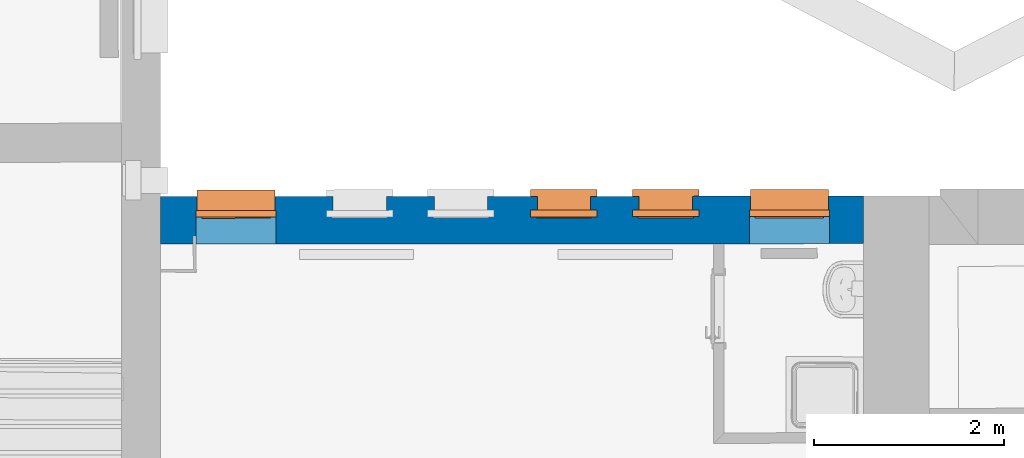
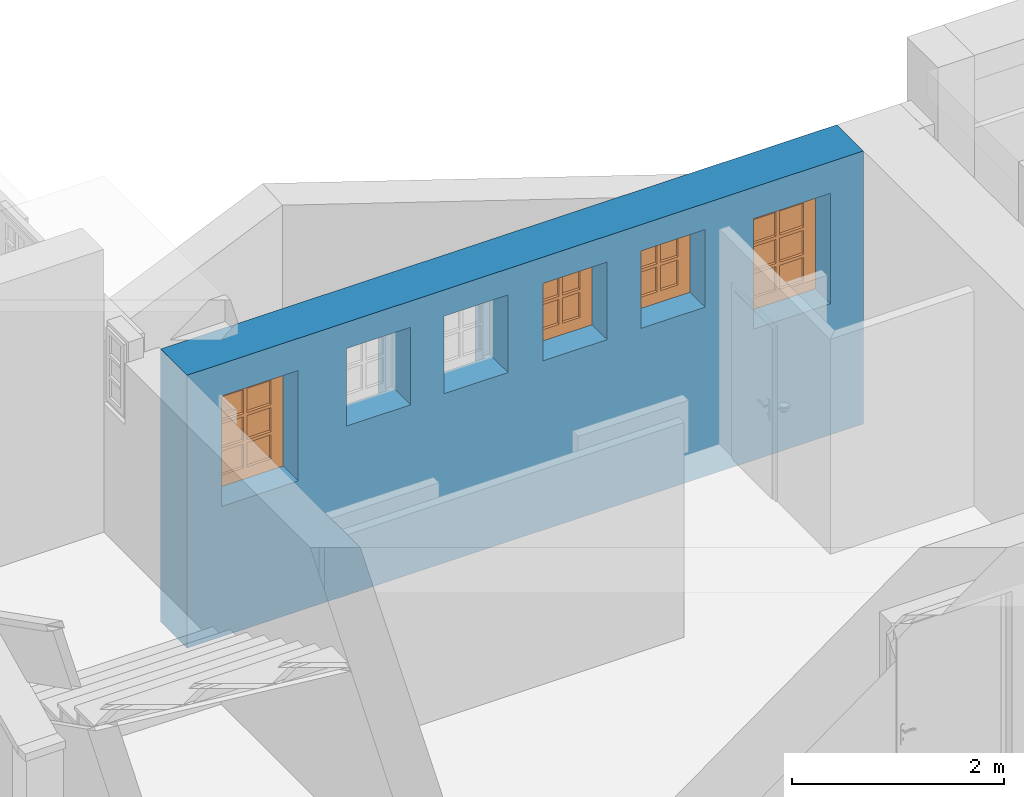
# One storey, part 43 of 196: 4 proxies, 1 wall, 6 openings.
"""IFC2X3 building model written with IfcOpenShell, lengths in metres."""

from ifc_helpers import new_model, entity, si_unit, converted_unit, derived_unit, money_unit, direction, frame, origin_with_axes, origin_2d_with_axis, place, context, subcontext, project, spatial, polyline, rectangle, outline, extrude, boolean, faceted_brep, source, transform, mapped, material, type_object, element, fill, save


model = new_model("IFC2X3")

# Units and contexts
model_context = context("Model", 3, precision=1e-05, world=origin_with_axes(), true_north=direction((0.0, 1.0)))
body_context = subcontext(model_context, "Body", "Model", "MODEL_VIEW")
ifc_project = project(units=[si_unit("LENGTHUNIT", "METRE"), si_unit("AREAUNIT", "SQUARE_METRE"), si_unit("VOLUMEUNIT", "CUBIC_METRE"), converted_unit("PLANEANGLEUNIT", "DEGREE", entity("IfcPlaneAngleMeasure", 0.0174532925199), si_unit("PLANEANGLEUNIT", "RADIAN"), dimensions=[0, 0, 0, 0, 0, 0, 0]), money_unit("EUR"), converted_unit("TIMEUNIT", "Year", entity("IfcTimeMeasure", 31556926.0), si_unit("TIMEUNIT", "SECOND"), dimensions=[0, 0, 1, 0, 0, 0, 0]), si_unit("MASSUNIT", "GRAM", prefix="KILO"), si_unit("THERMODYNAMICTEMPERATUREUNIT", "DEGREE_CELSIUS"), si_unit("LUMINOUSINTENSITYUNIT", "LUMEN"), si_unit("ENERGYUNIT", "JOULE", prefix="MEGA"), derived_unit("THERMALCONDUCTANCEUNIT", [(si_unit("POWERUNIT", "WATT"), 1), (si_unit("LENGTHUNIT", "METRE"), -1), (si_unit("THERMODYNAMICTEMPERATUREUNIT", "KELVIN"), -1)]), derived_unit("SPECIFICHEATCAPACITYUNIT", [(si_unit("ENERGYUNIT", "JOULE"), 1), (si_unit("MASSUNIT", "GRAM", prefix="KILO"), -1), (si_unit("THERMODYNAMICTEMPERATUREUNIT", "KELVIN"), -1)]), derived_unit("MASSDENSITYUNIT", [(si_unit("MASSUNIT", "GRAM", prefix="KILO"), 1), (si_unit("VOLUMEUNIT", "CUBIC_METRE"), -1)])], contexts=[model_context])

# Site, building, storey
site_placement = place(None, origin_with_axes())
site = spatial("IfcSite", under=ifc_project, at=site_placement, Name="Gelände", CompositionType="ELEMENT")
building_placement = place(site_placement, origin_with_axes())
building = spatial("IfcBuilding", under=site, at=building_placement, Name="Gebäude", CompositionType="ELEMENT")
storey_placement = place(building_placement, frame((0.0, 0.0, -3.0), z_axis=(0.0, 0.0, 1.0), x_axis=(1.0, 0.0, 0.0)))
storey = spatial("IfcBuildingStorey", under=building, at=storey_placement, Name="KELLERGESCHOSS", CompositionType="ELEMENT", Elevation=-3.0)

# Wall, openings, proxies
ifc_material = material(Name="05_ALLGEMEIN - TRAGENDE BAUTEILE")
wall_type = type_object("IfcWallType", Name="05_ALLGEMEIN - TRAGENDE BAUTEILE 500", PredefinedType="ELEMENTEDWALL")
wall_placement = place(storey_placement, frame((3.61400674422, 26.1135259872, -0.36), z_axis=(0.0, 0.0, 1.0), x_axis=(-0.99999977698, -0.000667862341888, 0.0)))
wall = element("IfcWall", 1, at=wall_placement, inside=storey, type_object=wall_type, material=ifc_material, Name="Wand-030", ObjectType="ELEMENTEDWALL", context=body_context, shape_type="CSG", body=[
    boolean("DIFFERENCE", boolean("DIFFERENCE", extrude(outline(polyline([(-0.000183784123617, 0.0), (8.48688919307, 0.0), (8.48688919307, 0.5), (-0.000183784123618, 0.5), (-0.000183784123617, 0.0)])), origin_with_axes(), (0.0, 0.0, 1.0), 3.15), faceted_brep([(8.07688894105, 0.5, 3.15), (8.07633455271, 0.0, 3.15), (8.48688919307, 0.0, 3.15), (8.48688919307, 0.5, 3.15), (8.07633455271, 0.0, 0.0), (8.07688894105, 0.5, 0.0), (8.48688919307, 0.0, 0.0), (8.48688919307, 0.5, 0.0)], [[[0, 1, 2, 3]], [[4, 1, 0, 5]], [[1, 4, 6, 2]], [[2, 6, 7, 3]], [[5, 0, 3, 7]], [[4, 5, 7, 6]]])), faceted_brep([(0.690000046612, 0.0, 3.15), (0.689816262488, 0.5, 3.15), (-0.000183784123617, 0.5, 3.15), (-0.000183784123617, 0.0, 3.15), (0.689816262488, 0.5, 0.0), (0.690000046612, 0.0, 0.0), (-0.000183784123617, 0.5, 0.0), (-0.000183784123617, 0.0, 0.0)], [[[0, 1, 2, 3]], [[4, 1, 0, 5]], [[1, 4, 6, 2]], [[2, 6, 7, 3]], [[5, 0, 3, 7]], [[4, 5, 7, 6]]])),
])
opening_1_placement = place(wall_placement, frame((1.46772297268, 0.0, 1.51287387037), z_axis=(0.0, 0.0, 1.0), x_axis=(1.0, 0.0, 0.0)))
opening_1 = element("IfcOpeningElement", 2, at=opening_1_placement, cuts=wall, Name="Fenster-015", context=body_context, shape_type="SweptSolid", body=[
    extrude(rectangle(XDim=0.84, YDim=1.275, at=origin_2d_with_axis()), frame((0.0, 0.145, 0.6375), z_axis=(0.0, -1.0, 0.0), x_axis=(1.0, 0.0, 0.0)), (0.0, 0.0, -1.0), 0.855),
    extrude(rectangle(XDim=0.82, YDim=1.265, at=origin_2d_with_axis()), frame((0.0, 0.145, 0.6325), z_axis=(0.0, 1.0, 0.0), x_axis=(1.0, 0.0, 0.0)), (0.0, 0.0, -1.0), 0.645),
    extrude(rectangle(XDim=0.82, YDim=0.150945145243, at=origin_2d_with_axis()), frame((0.0, 0.18583778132, -0.0754725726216), z_axis=(0.0, 1.0, 0.0), x_axis=(1.0, 0.0, 0.0)), (0.0, 0.0, -1.0), 0.54083778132),
])
opening_2_placement = place(wall_placement, frame((7.28240772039, 0.0, 1.50385387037), z_axis=(0.0, 0.0, 1.0), x_axis=(1.0, 0.0, 0.0)))
opening_2 = element("IfcOpeningElement", 3, at=opening_2_placement, cuts=wall, Name="Fenster-015", context=body_context, shape_type="SweptSolid", body=[
    extrude(rectangle(XDim=0.84, YDim=1.275, at=origin_2d_with_axis()), frame((0.0, 0.145, 0.6375), z_axis=(0.0, -1.0, 0.0), x_axis=(1.0, 0.0, 0.0)), (0.0, 0.0, -1.0), 0.855),
    extrude(rectangle(XDim=0.82, YDim=1.265, at=origin_2d_with_axis()), frame((0.0, 0.145, 0.6325), z_axis=(0.0, 1.0, 0.0), x_axis=(1.0, 0.0, 0.0)), (0.0, 0.0, -1.0), 0.645),
    extrude(rectangle(XDim=0.82, YDim=0.150945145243, at=origin_2d_with_axis()), frame((0.0, 0.18583778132, -0.0754725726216), z_axis=(0.0, 1.0, 0.0), x_axis=(1.0, 0.0, 0.0)), (0.0, 0.0, -1.0), 0.54083778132),
])
opening_3_placement = place(wall_placement, frame((2.76771351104, 0.0, 1.95338403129), z_axis=(0.0, 0.0, 1.0), x_axis=(1.0, 0.0, 0.0)))
opening_3 = element("IfcOpeningElement", 4, at=opening_3_placement, cuts=wall, Name="Fenster-015", context=body_context, shape_type="SweptSolid", body=[
    extrude(rectangle(XDim=0.699, YDim=0.895160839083, at=origin_2d_with_axis()), frame((0.0, 0.145, 0.447580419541), z_axis=(0.0, -1.0, 0.0), x_axis=(1.0, 0.0, 0.0)), (0.0, 0.0, -1.0), 0.855),
    extrude(rectangle(XDim=0.559, YDim=0.825160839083, at=origin_2d_with_axis()), frame((0.0, 0.145, 0.412580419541), z_axis=(0.0, 1.0, 0.0), x_axis=(1.0, 0.0, 0.0)), (0.0, 0.0, -1.0), 0.645),
    extrude(rectangle(XDim=0.559, YDim=0.150945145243, at=origin_2d_with_axis()), frame((0.0, 0.18583778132, -0.0754725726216), z_axis=(0.0, 1.0, 0.0), x_axis=(1.0, 0.0, 0.0)), (0.0, 0.0, -1.0), 0.54083778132),
])
opening_4_placement = place(wall_placement, frame((3.8379340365, 0.0, 1.95338403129), z_axis=(0.0, 0.0, 1.0), x_axis=(1.0, 0.0, 0.0)))
opening_4 = element("IfcOpeningElement", 5, at=opening_4_placement, cuts=wall, Name="Fenster-015", context=body_context, shape_type="SweptSolid", body=[
    extrude(rectangle(XDim=0.699, YDim=0.895160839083, at=origin_2d_with_axis()), frame((0.0, 0.145, 0.447580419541), z_axis=(0.0, -1.0, 0.0), x_axis=(1.0, 0.0, 0.0)), (0.0, 0.0, -1.0), 0.855),
    extrude(rectangle(XDim=0.559, YDim=0.825160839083, at=origin_2d_with_axis()), frame((0.0, 0.145, 0.412580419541), z_axis=(0.0, 1.0, 0.0), x_axis=(1.0, 0.0, 0.0)), (0.0, 0.0, -1.0), 0.645),
    extrude(rectangle(XDim=0.559, YDim=0.150945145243, at=origin_2d_with_axis()), frame((0.0, 0.18583778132, -0.0754725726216), z_axis=(0.0, 1.0, 0.0), x_axis=(1.0, 0.0, 0.0)), (0.0, 0.0, -1.0), 0.54083778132),
])
opening_5_placement = place(wall_placement, frame((4.92027128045, 0.0, 1.95338403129), z_axis=(0.0, 0.0, 1.0), x_axis=(1.0, 0.0, 0.0)))
element("IfcOpeningElement", 6, at=opening_5_placement, cuts=wall, Name="Fenster-015", context=body_context, shape_type="SweptSolid", body=[
    extrude(rectangle(XDim=0.699, YDim=0.895160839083, at=origin_2d_with_axis()), frame((0.0, 0.145, 0.447580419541), z_axis=(0.0, -1.0, 0.0), x_axis=(1.0, 0.0, 0.0)), (0.0, 0.0, -1.0), 0.855),
    extrude(rectangle(XDim=0.559, YDim=0.825160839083, at=origin_2d_with_axis()), frame((0.0, 0.145, 0.412580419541), z_axis=(0.0, 1.0, 0.0), x_axis=(1.0, 0.0, 0.0)), (0.0, 0.0, -1.0), 0.645),
    extrude(rectangle(XDim=0.559, YDim=0.150945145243, at=origin_2d_with_axis()), frame((0.0, 0.18583778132, -0.0754725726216), z_axis=(0.0, 1.0, 0.0), x_axis=(1.0, 0.0, 0.0)), (0.0, 0.0, -1.0), 0.54083778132),
])
opening_6_placement = place(wall_placement, frame((5.9839098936, 0.0, 1.95338403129), z_axis=(0.0, 0.0, 1.0), x_axis=(1.0, 0.0, 0.0)))
element("IfcOpeningElement", 7, at=opening_6_placement, cuts=wall, Name="Fenster-015", context=body_context, shape_type="SweptSolid", body=[
    extrude(rectangle(XDim=0.699, YDim=0.895160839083, at=origin_2d_with_axis()), frame((0.0, 0.145, 0.447580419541), z_axis=(0.0, -1.0, 0.0), x_axis=(1.0, 0.0, 0.0)), (0.0, 0.0, -1.0), 0.855),
    extrude(rectangle(XDim=0.559, YDim=0.825160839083, at=origin_2d_with_axis()), frame((0.0, 0.145, 0.412580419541), z_axis=(0.0, 1.0, 0.0), x_axis=(1.0, 0.0, 0.0)), (0.0, 0.0, -1.0), 0.645),
    extrude(rectangle(XDim=0.559, YDim=0.150945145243, at=origin_2d_with_axis()), frame((0.0, 0.18583778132, -0.0754725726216), z_axis=(0.0, 1.0, 0.0), x_axis=(1.0, 0.0, 0.0)), (0.0, 0.0, -1.0), 0.54083778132),
])
building_element_proxy_type = type_object("IfcBuildingElementProxyType", Name="1-Flügelfenster 25", PredefinedType="NOTDEFINED")
shared_shape_1 = source(origin_with_axes(), body_context, "Body", "Brep", [
    faceted_brep([(-0.41, -0.05, 0.0), (-0.41, -0.28583778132, -0.0415845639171), (0.41, -0.28583778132, -0.0415845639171), (0.41, -0.05, 0.0), (-0.41, -0.02916221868, -0.118176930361), (-0.41, -0.265, -0.159761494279), (0.41, -0.265, -0.159761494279), (0.41, -0.02916221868, -0.118176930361)], [[[0, 1, 2, 3]], [[0, 4, 5, 1]], [[1, 5, 6, 2]], [[3, 2, 6, 7]], [[4, 0, 3, 7]], [[5, 4, 7, 6]]]),
    faceted_brep([(-0.42, -0.07, 0.0), (-0.42, 0.0, 0.0), (-0.34, 0.0, 0.08), (-0.34, -0.07, 0.08), (-0.42, -0.07, 1.275), (-0.42, 0.0, 1.275), (-0.34, 0.0, 1.105), (-0.34, -0.07, 1.105)], [[[0, 1, 2, 3]], [[4, 5, 1, 0]], [[1, 5, 6, 2]], [[3, 2, 6, 7]], [[0, 3, 7, 4]], [[7, 6, 5, 4]]]),
    faceted_brep([(0.42, -0.07, 0.0), (0.42, 0.0, 0.0), (0.42, 0.0, 1.275), (0.42, -0.07, 1.275), (0.34, -0.07, 0.08), (0.34, 0.0, 0.08), (0.34, 0.0, 1.105), (0.34, -0.07, 1.105)], [[[0, 1, 2, 3]], [[4, 5, 1, 0]], [[1, 5, 6, 2]], [[3, 2, 6, 7]], [[0, 3, 7, 4]], [[7, 6, 5, 4]]]),
    faceted_brep([(-0.42, -0.07, 0.0), (-0.42, 0.0, 0.0), (0.42, 0.0, 0.0), (0.42, -0.07, 0.0), (-0.34, -0.07, 0.08), (-0.34, 0.0, 0.08), (0.0, 0.0, 0.08), (0.34, 0.0, 0.08), (0.34, -0.07, 0.08), (0.0, -0.07, 0.08)], [[[0, 1, 2, 3]], [[4, 5, 1, 0]], [[1, 5, 6, 7, 2]], [[3, 2, 7, 8]], [[0, 3, 8, 9, 4]], [[9, 6, 5, 4]], [[8, 7, 6, 9]]]),
    faceted_brep([(-0.42, -0.07, 1.275), (-0.42, 0.0, 1.275), (-0.34, 0.0, 1.105), (-0.34, -0.07, 1.105), (0.42, -0.07, 1.275), (0.42, 0.0, 1.275), (0.34, 0.0, 1.105), (0.0, 0.0, 1.105), (0.0, -0.07, 1.105), (0.34, -0.07, 1.105)], [[[0, 1, 2, 3]], [[4, 5, 1, 0]], [[1, 5, 6, 7, 2]], [[3, 2, 7, 8]], [[0, 3, 8, 9, 4]], [[9, 6, 5, 4]], [[8, 7, 6, 9]]]),
    faceted_brep([(-0.36, 0.0, 0.06), (-0.36, 0.013, 0.06), (-0.28, 0.013, 0.14), (-0.28, 0.0, 0.14), (-0.36, 0.0, 1.125), (-0.36, 0.013, 1.125), (-0.28, 0.013, 1.045), (-0.28, 0.0, 1.045)], [[[0, 1, 2, 3]], [[4, 5, 1, 0]], [[1, 5, 6, 2]], [[3, 2, 6, 7]], [[0, 3, 7, 4]], [[7, 6, 5, 4]]]),
    faceted_brep([(0.36, 0.0, 0.06), (0.28, 0.0, 0.14), (0.28, 0.013, 0.14), (0.36, 0.013, 0.06), (0.36, 0.0, 1.125), (0.28, 0.0, 1.045), (0.28, 0.013, 1.045), (0.36, 0.013, 1.125)], [[[0, 1, 2, 3]], [[0, 4, 5, 1]], [[1, 5, 6, 2]], [[3, 2, 6, 7]], [[4, 0, 3, 7]], [[5, 4, 7, 6]]]),
    faceted_brep([(-0.36, 0.0, 0.06), (-0.36, 0.013, 0.06), (0.36, 0.013, 0.06), (0.36, 0.0, 0.06), (-0.28, 0.0, 0.14), (-0.28, 0.013, 0.14), (0.28, 0.013, 0.14), (0.28, 0.0, 0.14)], [[[0, 1, 2, 3]], [[4, 5, 1, 0]], [[1, 5, 6, 2]], [[3, 2, 6, 7]], [[0, 3, 7, 4]], [[7, 6, 5, 4]]]),
    faceted_brep([(-0.36, 0.0, 1.125), (0.36, 0.0, 1.125), (0.36, 0.013, 1.125), (-0.36, 0.013, 1.125), (-0.28, 0.0, 1.045), (0.28, 0.0, 1.045), (0.28, 0.013, 1.045), (-0.28, 0.013, 1.045)], [[[0, 1, 2, 3]], [[0, 4, 5, 1]], [[1, 5, 6, 2]], [[3, 2, 6, 7]], [[4, 0, 3, 7]], [[5, 4, 7, 6]]]),
    faceted_brep([(-0.34, -0.057, 0.08), (-0.34, 0.0, 0.08), (-0.28, 0.0, 0.14), (-0.28, -0.057, 0.14), (-0.34, -0.057, 1.105), (-0.34, 0.0, 1.105), (-0.28, 0.0, 1.045), (-0.28, -0.057, 1.045)], [[[0, 1, 2, 3]], [[4, 5, 1, 0]], [[1, 5, 6, 2]], [[3, 2, 6, 7]], [[0, 3, 7, 4]], [[7, 6, 5, 4]]]),
    faceted_brep([(0.34, -0.057, 0.08), (0.28, -0.057, 0.14), (0.28, 0.0, 0.14), (0.34, 0.0, 0.08), (0.34, -0.057, 1.105), (0.28, -0.057, 1.045), (0.28, 0.0, 1.045), (0.34, 0.0, 1.105)], [[[0, 1, 2, 3]], [[0, 4, 5, 1]], [[1, 5, 6, 2]], [[3, 2, 6, 7]], [[4, 0, 3, 7]], [[5, 4, 7, 6]]]),
    faceted_brep([(-0.34, -0.057, 0.08), (-0.34, 0.0, 0.08), (0.34, 0.0, 0.08), (0.34, -0.057, 0.08), (-0.28, -0.057, 0.14), (-0.28, 0.0, 0.14), (0.28, 0.0, 0.14), (0.28, -0.057, 0.14)], [[[0, 1, 2, 3]], [[4, 5, 1, 0]], [[1, 5, 6, 2]], [[3, 2, 6, 7]], [[0, 3, 7, 4]], [[7, 6, 5, 4]]]),
    faceted_brep([(-0.34, -0.057, 1.105), (0.34, -0.057, 1.105), (0.34, 0.0, 1.105), (-0.34, 0.0, 1.105), (-0.28, -0.057, 1.045), (0.28, -0.057, 1.045), (0.28, 0.0, 1.045), (-0.28, 0.0, 1.045)], [[[0, 1, 2, 3]], [[0, 4, 5, 1]], [[1, 5, 6, 2]], [[3, 2, 6, 7]], [[4, 0, 3, 7]], [[5, 4, 7, 6]]]),
    faceted_brep([(-0.0175, -0.057, 0.14), (-0.0175, -0.022, 0.14), (0.0175, -0.022, 0.14), (0.0175, -0.057, 0.14), (-0.0175, -0.057, 1.045), (-0.0175, -0.022, 1.045), (0.0175, -0.022, 1.045), (0.0175, -0.057, 1.045)], [[[0, 1, 2, 3]], [[4, 5, 1, 0]], [[1, 5, 6, 2]], [[3, 2, 6, 7]], [[0, 3, 7, 4]], [[7, 6, 5, 4]]]),
    faceted_brep([(-0.0175, -0.022, 0.14), (-0.0175, 0.013, 0.14), (0.0175, 0.013, 0.14), (0.0175, -0.022, 0.14), (-0.0175, -0.022, 1.045), (-0.0175, 0.013, 1.045), (0.0175, 0.013, 1.045), (0.0175, -0.022, 1.045)], [[[0, 1, 2, 3]], [[4, 5, 1, 0]], [[1, 5, 6, 2]], [[3, 2, 6, 7]], [[0, 3, 7, 4]], [[7, 6, 5, 4]]]),
    faceted_brep([(-0.0175, -0.057, 0.418333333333), (-0.0175, -0.057, 0.453333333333), (-0.28, -0.057, 0.453333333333), (-0.28, -0.057, 0.418333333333), (-0.0175, -0.022, 0.453333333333), (-0.0175, -0.022, 0.418333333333), (-0.28, -0.022, 0.453333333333), (-0.28, -0.022, 0.418333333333)], [[[0, 1, 2, 3]], [[4, 1, 0, 5]], [[1, 4, 6, 2]], [[6, 7, 3, 2]], [[5, 0, 3, 7]], [[4, 5, 7, 6]]]),
    faceted_brep([(0.0175, -0.022, 0.453333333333), (0.0175, -0.057, 0.453333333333), (0.28, -0.057, 0.453333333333), (0.28, -0.022, 0.453333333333), (0.0175, -0.057, 0.418333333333), (0.0175, -0.022, 0.418333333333), (0.28, -0.057, 0.418333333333), (0.28, -0.022, 0.418333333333)], [[[0, 1, 2, 3]], [[4, 1, 0, 5]], [[1, 4, 6, 2]], [[7, 3, 2, 6]], [[5, 0, 3, 7]], [[4, 5, 7, 6]]]),
    faceted_brep([(-0.0175, -0.022, 0.418333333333), (-0.0175, -0.022, 0.453333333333), (-0.28, -0.022, 0.453333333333), (-0.28, -0.022, 0.418333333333), (-0.0175, 0.013, 0.453333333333), (-0.0175, 0.013, 0.418333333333), (-0.28, 0.013, 0.453333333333), (-0.28, 0.013, 0.418333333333)], [[[0, 1, 2, 3]], [[4, 1, 0, 5]], [[1, 4, 6, 2]], [[6, 7, 3, 2]], [[5, 0, 3, 7]], [[4, 5, 7, 6]]]),
    faceted_brep([(0.0175, 0.013, 0.453333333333), (0.0175, -0.022, 0.453333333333), (0.28, -0.022, 0.453333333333), (0.28, 0.013, 0.453333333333), (0.0175, -0.022, 0.418333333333), (0.0175, 0.013, 0.418333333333), (0.28, -0.022, 0.418333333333), (0.28, 0.013, 0.418333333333)], [[[0, 1, 2, 3]], [[4, 1, 0, 5]], [[1, 4, 6, 2]], [[7, 3, 2, 6]], [[5, 0, 3, 7]], [[4, 5, 7, 6]]]),
    faceted_brep([(-0.0175, -0.057, 0.731666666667), (-0.0175, -0.057, 0.766666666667), (-0.28, -0.057, 0.766666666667), (-0.28, -0.057, 0.731666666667), (-0.0175, -0.022, 0.766666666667), (-0.0175, -0.022, 0.731666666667), (-0.28, -0.022, 0.766666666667), (-0.28, -0.022, 0.731666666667)], [[[0, 1, 2, 3]], [[4, 1, 0, 5]], [[1, 4, 6, 2]], [[6, 7, 3, 2]], [[5, 0, 3, 7]], [[4, 5, 7, 6]]]),
    faceted_brep([(0.0175, -0.022, 0.766666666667), (0.0175, -0.057, 0.766666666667), (0.28, -0.057, 0.766666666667), (0.28, -0.022, 0.766666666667), (0.0175, -0.057, 0.731666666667), (0.0175, -0.022, 0.731666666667), (0.28, -0.057, 0.731666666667), (0.28, -0.022, 0.731666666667)], [[[0, 1, 2, 3]], [[4, 1, 0, 5]], [[1, 4, 6, 2]], [[7, 3, 2, 6]], [[5, 0, 3, 7]], [[4, 5, 7, 6]]]),
    faceted_brep([(-0.0175, -0.022, 0.731666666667), (-0.0175, -0.022, 0.766666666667), (-0.28, -0.022, 0.766666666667), (-0.28, -0.022, 0.731666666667), (-0.0175, 0.013, 0.766666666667), (-0.0175, 0.013, 0.731666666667), (-0.28, 0.013, 0.766666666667), (-0.28, 0.013, 0.731666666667)], [[[0, 1, 2, 3]], [[4, 1, 0, 5]], [[1, 4, 6, 2]], [[6, 7, 3, 2]], [[5, 0, 3, 7]], [[4, 5, 7, 6]]]),
    faceted_brep([(0.0175, 0.013, 0.766666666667), (0.0175, -0.022, 0.766666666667), (0.28, -0.022, 0.766666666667), (0.28, 0.013, 0.766666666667), (0.0175, -0.022, 0.731666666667), (0.0175, 0.013, 0.731666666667), (0.28, -0.022, 0.731666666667), (0.28, 0.013, 0.731666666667)], [[[0, 1, 2, 3]], [[4, 1, 0, 5]], [[1, 4, 6, 2]], [[7, 3, 2, 6]], [[5, 0, 3, 7]], [[4, 5, 7, 6]]]),
    faceted_brep([(-0.0175, -0.017, 0.731666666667), (-0.0175, -0.027, 0.731666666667), (-0.0175, -0.027, 0.453333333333), (-0.0175, -0.017, 0.453333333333), (-0.28, -0.027, 0.731666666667), (-0.28, -0.017, 0.731666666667), (-0.28, -0.027, 0.453333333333), (-0.28, -0.017, 0.453333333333)], [[[0, 1, 2, 3]], [[4, 1, 0, 5]], [[1, 4, 6, 2]], [[2, 6, 7, 3]], [[5, 0, 3, 7]], [[4, 5, 7, 6]]]),
    faceted_brep([(0.28, -0.027, 0.14), (0.28, -0.017, 0.14), (0.28, -0.017, 0.418333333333), (0.28, -0.027, 0.418333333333), (0.0175, -0.027, 0.14), (0.0175, -0.017, 0.14), (0.0175, -0.017, 0.418333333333), (0.0175, -0.027, 0.418333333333)], [[[0, 1, 2, 3]], [[0, 4, 5, 1]], [[1, 5, 6, 2]], [[2, 6, 7, 3]], [[4, 0, 3, 7]], [[5, 4, 7, 6]]]),
    faceted_brep([(-0.0175, -0.027, 0.14), (-0.0175, -0.017, 0.14), (-0.0175, -0.017, 0.418333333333), (-0.0175, -0.027, 0.418333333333), (-0.28, -0.017, 0.14), (-0.28, -0.027, 0.14), (-0.28, -0.017, 0.418333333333), (-0.28, -0.027, 0.418333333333)], [[[0, 1, 2, 3]], [[4, 1, 0, 5]], [[1, 4, 6, 2]], [[2, 6, 7, 3]], [[5, 0, 3, 7]], [[4, 5, 7, 6]]]),
    faceted_brep([(0.28, -0.017, 0.731666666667), (0.28, -0.027, 0.731666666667), (0.28, -0.027, 0.453333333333), (0.28, -0.017, 0.453333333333), (0.0175, -0.027, 0.731666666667), (0.0175, -0.017, 0.731666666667), (0.0175, -0.027, 0.453333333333), (0.0175, -0.017, 0.453333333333)], [[[0, 1, 2, 3]], [[4, 1, 0, 5]], [[1, 4, 6, 2]], [[2, 6, 7, 3]], [[5, 0, 3, 7]], [[4, 5, 7, 6]]]),
    faceted_brep([(-0.28, -0.027, 0.766666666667), (-0.0175, -0.027, 0.766666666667), (-0.0175, -0.027, 1.045), (-0.28, -0.027, 1.045), (-0.0175, -0.017, 0.766666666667), (-0.28, -0.017, 0.766666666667), (-0.0175, -0.017, 1.045), (-0.28, -0.017, 1.045)], [[[0, 1, 2, 3]], [[4, 1, 0, 5]], [[1, 4, 6, 2]], [[7, 3, 2, 6]], [[5, 0, 3, 7]], [[4, 5, 7, 6]]]),
    faceted_brep([(0.0175, -0.027, 0.766666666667), (0.28, -0.027, 0.766666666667), (0.28, -0.027, 1.045), (0.0175, -0.027, 1.045), (0.28, -0.017, 0.766666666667), (0.0175, -0.017, 0.766666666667), (0.28, -0.017, 1.045), (0.0175, -0.017, 1.045)], [[[0, 1, 2, 3]], [[4, 1, 0, 5]], [[1, 4, 6, 2]], [[2, 6, 7, 3]], [[5, 0, 3, 7]], [[4, 5, 7, 6]]]),
])
proxy_1_placement = place(opening_1_placement, frame((-0.42, 0.0, 0.0), z_axis=(0.0, 0.0, 1.0), x_axis=(1.0, 0.0, 0.0)))
proxy_1 = element("IfcBuildingElementProxy", 8, at=proxy_1_placement, inside=storey, type_object=building_element_proxy_type, Name="Fenster-015", context=body_context, shape_type="MappedRepresentation", body=[
    mapped(shared_shape_1, transform((0.42, 0.215, 0.0))),
])
fill(opening_1, proxy_1)
proxy_2_placement = place(opening_2_placement, frame((-0.42, 0.0, 0.0), z_axis=(0.0, 0.0, 1.0), x_axis=(1.0, 0.0, 0.0)))
proxy_2 = element("IfcBuildingElementProxy", 9, at=proxy_2_placement, inside=storey, type_object=building_element_proxy_type, Name="Fenster-015", context=body_context, shape_type="MappedRepresentation", body=[
    mapped(shared_shape_1, transform((0.42, 0.215, 0.0))),
])
fill(opening_2, proxy_2)
shared_shape_2 = source(origin_with_axes(), body_context, "Body", "Brep", [
    faceted_brep([(0.3495, -0.215, -0.150945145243), (0.3495, -0.215, -0.0290939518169), (0.3495, -0.28583778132, -0.0415845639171), (0.3495, -0.265, -0.159761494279), (0.2795, -0.215, -0.0290939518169), (0.2795, -0.215, -0.150945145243), (0.2795, -0.05, 0.0), (-0.2795, -0.05, 0.0), (-0.2795, -0.215, -0.0290939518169), (-0.3495, -0.215, -0.0290939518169), (-0.3495, -0.28583778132, -0.0415845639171), (-0.3495, -0.265, -0.159761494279), (-0.3495, -0.215, -0.150945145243), (-0.2795, -0.215, -0.150945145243), (-0.2795, -0.02916221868, -0.118176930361), (0.2795, -0.02916221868, -0.118176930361)], [[[0, 1, 2, 3]], [[4, 1, 0, 5]], [[4, 6, 7, 8, 9, 10, 2, 1]], [[3, 2, 10, 11]], [[5, 0, 3, 11, 12, 13, 14, 15]], [[15, 6, 4, 5]], [[6, 15, 14, 7]], [[7, 14, 13, 8]], [[8, 13, 12, 9]], [[12, 11, 10, 9]]]),
    faceted_brep([(-0.3495, -0.07, 0.0), (-0.3495, 0.0, 0.0), (-0.2695, 0.0, 0.08), (-0.2695, -0.07, 0.08), (-0.3495, -0.07, 0.895160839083), (-0.3495, 0.0, 0.895160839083), (-0.2695, 0.0, 0.815160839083), (-0.2695, -0.07, 0.815160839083)], [[[0, 1, 2, 3]], [[4, 5, 1, 0]], [[1, 5, 6, 2]], [[3, 2, 6, 7]], [[0, 3, 7, 4]], [[7, 6, 5, 4]]]),
    faceted_brep([(0.3495, -0.07, 0.0), (0.3495, 0.0, 0.0), (0.3495, 0.0, 0.895160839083), (0.3495, -0.07, 0.895160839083), (0.2695, -0.07, 0.08), (0.2695, 0.0, 0.08), (0.2695, 0.0, 0.815160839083), (0.2695, -0.07, 0.815160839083)], [[[0, 1, 2, 3]], [[4, 5, 1, 0]], [[1, 5, 6, 2]], [[3, 2, 6, 7]], [[0, 3, 7, 4]], [[7, 6, 5, 4]]]),
    faceted_brep([(-0.3495, -0.07, 0.0), (-0.3495, 0.0, 0.0), (0.3495, 0.0, 0.0), (0.3495, -0.07, 0.0), (-0.2695, -0.07, 0.08), (-0.2695, 0.0, 0.08), (0.0, 0.0, 0.08), (0.2695, 0.0, 0.08), (0.2695, -0.07, 0.08), (0.0, -0.07, 0.08)], [[[0, 1, 2, 3]], [[4, 5, 1, 0]], [[1, 5, 6, 7, 2]], [[3, 2, 7, 8]], [[0, 3, 8, 9, 4]], [[9, 6, 5, 4]], [[8, 7, 6, 9]]]),
    faceted_brep([(-0.3495, -0.07, 0.895160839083), (-0.3495, 0.0, 0.895160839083), (-0.2695, 0.0, 0.815160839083), (-0.2695, -0.07, 0.815160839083), (0.3495, -0.07, 0.895160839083), (0.3495, 0.0, 0.895160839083), (0.2695, 0.0, 0.815160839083), (0.0, 0.0, 0.815160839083), (0.0, -0.07, 0.815160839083), (0.2695, -0.07, 0.815160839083)], [[[0, 1, 2, 3]], [[4, 5, 1, 0]], [[1, 5, 6, 7, 2]], [[3, 2, 7, 8]], [[0, 3, 8, 9, 4]], [[9, 6, 5, 4]], [[8, 7, 6, 9]]]),
    faceted_brep([(-0.2895, 0.0, 0.06), (-0.2895, 0.013, 0.06), (-0.2095, 0.013, 0.14), (-0.2095, 0.0, 0.14), (-0.2895, 0.0, 0.835160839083), (-0.2895, 0.013, 0.835160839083), (-0.2095, 0.013, 0.755160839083), (-0.2095, 0.0, 0.755160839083)], [[[0, 1, 2, 3]], [[4, 5, 1, 0]], [[1, 5, 6, 2]], [[3, 2, 6, 7]], [[0, 3, 7, 4]], [[7, 6, 5, 4]]]),
    faceted_brep([(0.2895, 0.0, 0.06), (0.2095, 0.0, 0.14), (0.2095, 0.013, 0.14), (0.2895, 0.013, 0.06), (0.2895, 0.0, 0.835160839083), (0.2095, 0.0, 0.755160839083), (0.2095, 0.013, 0.755160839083), (0.2895, 0.013, 0.835160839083)], [[[0, 1, 2, 3]], [[0, 4, 5, 1]], [[1, 5, 6, 2]], [[3, 2, 6, 7]], [[4, 0, 3, 7]], [[5, 4, 7, 6]]]),
    faceted_brep([(-0.2895, 0.0, 0.06), (-0.2895, 0.013, 0.06), (0.2895, 0.013, 0.06), (0.2895, 0.0, 0.06), (-0.2095, 0.0, 0.14), (-0.2095, 0.013, 0.14), (0.2095, 0.013, 0.14), (0.2095, 0.0, 0.14)], [[[0, 1, 2, 3]], [[4, 5, 1, 0]], [[1, 5, 6, 2]], [[3, 2, 6, 7]], [[0, 3, 7, 4]], [[7, 6, 5, 4]]]),
    faceted_brep([(-0.2895, 0.0, 0.835160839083), (0.2895, 0.0, 0.835160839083), (0.2895, 0.013, 0.835160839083), (-0.2895, 0.013, 0.835160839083), (-0.2095, 0.0, 0.755160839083), (0.2095, 0.0, 0.755160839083), (0.2095, 0.013, 0.755160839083), (-0.2095, 0.013, 0.755160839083)], [[[0, 1, 2, 3]], [[0, 4, 5, 1]], [[1, 5, 6, 2]], [[3, 2, 6, 7]], [[4, 0, 3, 7]], [[5, 4, 7, 6]]]),
    faceted_brep([(-0.2695, -0.057, 0.08), (-0.2695, 0.0, 0.08), (-0.2095, 0.0, 0.14), (-0.2095, -0.057, 0.14), (-0.2695, -0.057, 0.815160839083), (-0.2695, 0.0, 0.815160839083), (-0.2095, 0.0, 0.755160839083), (-0.2095, -0.057, 0.755160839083)], [[[0, 1, 2, 3]], [[4, 5, 1, 0]], [[1, 5, 6, 2]], [[3, 2, 6, 7]], [[0, 3, 7, 4]], [[7, 6, 5, 4]]]),
    faceted_brep([(0.2695, -0.057, 0.08), (0.2095, -0.057, 0.14), (0.2095, 0.0, 0.14), (0.2695, 0.0, 0.08), (0.2695, -0.057, 0.815160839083), (0.2095, -0.057, 0.755160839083), (0.2095, 0.0, 0.755160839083), (0.2695, 0.0, 0.815160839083)], [[[0, 1, 2, 3]], [[0, 4, 5, 1]], [[1, 5, 6, 2]], [[3, 2, 6, 7]], [[4, 0, 3, 7]], [[5, 4, 7, 6]]]),
    faceted_brep([(-0.2695, -0.057, 0.08), (-0.2695, 0.0, 0.08), (0.2695, 0.0, 0.08), (0.2695, -0.057, 0.08), (-0.2095, -0.057, 0.14), (-0.2095, 0.0, 0.14), (0.2095, 0.0, 0.14), (0.2095, -0.057, 0.14)], [[[0, 1, 2, 3]], [[4, 5, 1, 0]], [[1, 5, 6, 2]], [[3, 2, 6, 7]], [[0, 3, 7, 4]], [[7, 6, 5, 4]]]),
    faceted_brep([(-0.2695, -0.057, 0.815160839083), (0.2695, -0.057, 0.815160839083), (0.2695, 0.0, 0.815160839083), (-0.2695, 0.0, 0.815160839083), (-0.2095, -0.057, 0.755160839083), (0.2095, -0.057, 0.755160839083), (0.2095, 0.0, 0.755160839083), (-0.2095, 0.0, 0.755160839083)], [[[0, 1, 2, 3]], [[0, 4, 5, 1]], [[1, 5, 6, 2]], [[3, 2, 6, 7]], [[4, 0, 3, 7]], [[5, 4, 7, 6]]]),
    faceted_brep([(-0.0175, -0.057, 0.14), (-0.0175, -0.022, 0.14), (0.0175, -0.022, 0.14), (0.0175, -0.057, 0.14), (-0.0175, -0.057, 0.755160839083), (-0.0175, -0.022, 0.755160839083), (0.0175, -0.022, 0.755160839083), (0.0175, -0.057, 0.755160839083)], [[[0, 1, 2, 3]], [[4, 5, 1, 0]], [[1, 5, 6, 2]], [[3, 2, 6, 7]], [[0, 3, 7, 4]], [[7, 6, 5, 4]]]),
    faceted_brep([(-0.0175, -0.022, 0.14), (-0.0175, 0.013, 0.14), (0.0175, 0.013, 0.14), (0.0175, -0.022, 0.14), (-0.0175, -0.022, 0.755160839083), (-0.0175, 0.013, 0.755160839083), (0.0175, 0.013, 0.755160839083), (0.0175, -0.022, 0.755160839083)], [[[0, 1, 2, 3]], [[4, 5, 1, 0]], [[1, 5, 6, 2]], [[3, 2, 6, 7]], [[0, 3, 7, 4]], [[7, 6, 5, 4]]]),
    faceted_brep([(-0.0175, -0.057, 0.430080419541), (-0.0175, -0.057, 0.465080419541), (-0.2095, -0.057, 0.465080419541), (-0.2095, -0.057, 0.430080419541), (-0.0175, -0.022, 0.465080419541), (-0.0175, -0.022, 0.430080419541), (-0.2095, -0.022, 0.465080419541), (-0.2095, -0.022, 0.430080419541)], [[[0, 1, 2, 3]], [[4, 1, 0, 5]], [[1, 4, 6, 2]], [[6, 7, 3, 2]], [[5, 0, 3, 7]], [[4, 5, 7, 6]]]),
    faceted_brep([(0.0175, -0.022, 0.465080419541), (0.0175, -0.057, 0.465080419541), (0.2095, -0.057, 0.465080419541), (0.2095, -0.022, 0.465080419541), (0.0175, -0.057, 0.430080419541), (0.0175, -0.022, 0.430080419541), (0.2095, -0.057, 0.430080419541), (0.2095, -0.022, 0.430080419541)], [[[0, 1, 2, 3]], [[4, 1, 0, 5]], [[1, 4, 6, 2]], [[7, 3, 2, 6]], [[5, 0, 3, 7]], [[4, 5, 7, 6]]]),
    faceted_brep([(-0.0175, -0.022, 0.430080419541), (-0.0175, -0.022, 0.465080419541), (-0.2095, -0.022, 0.465080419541), (-0.2095, -0.022, 0.430080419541), (-0.0175, 0.013, 0.465080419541), (-0.0175, 0.013, 0.430080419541), (-0.2095, 0.013, 0.465080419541), (-0.2095, 0.013, 0.430080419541)], [[[0, 1, 2, 3]], [[4, 1, 0, 5]], [[1, 4, 6, 2]], [[6, 7, 3, 2]], [[5, 0, 3, 7]], [[4, 5, 7, 6]]]),
    faceted_brep([(0.0175, 0.013, 0.465080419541), (0.0175, -0.022, 0.465080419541), (0.2095, -0.022, 0.465080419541), (0.2095, 0.013, 0.465080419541), (0.0175, -0.022, 0.430080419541), (0.0175, 0.013, 0.430080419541), (0.2095, -0.022, 0.430080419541), (0.2095, 0.013, 0.430080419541)], [[[0, 1, 2, 3]], [[4, 1, 0, 5]], [[1, 4, 6, 2]], [[7, 3, 2, 6]], [[5, 0, 3, 7]], [[4, 5, 7, 6]]]),
    faceted_brep([(0.2095, -0.017, 0.430080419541), (0.2095, -0.027, 0.430080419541), (0.2095, -0.027, 0.14), (0.2095, -0.017, 0.14), (0.0175, -0.027, 0.430080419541), (0.0175, -0.017, 0.430080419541), (0.0175, -0.027, 0.14), (0.0175, -0.017, 0.14)], [[[0, 1, 2, 3]], [[4, 1, 0, 5]], [[1, 4, 6, 2]], [[7, 3, 2, 6]], [[5, 0, 3, 7]], [[4, 5, 7, 6]]]),
    faceted_brep([(-0.0175, -0.017, 0.430080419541), (-0.0175, -0.027, 0.430080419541), (-0.0175, -0.027, 0.14), (-0.0175, -0.017, 0.14), (-0.2095, -0.027, 0.430080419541), (-0.2095, -0.017, 0.430080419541), (-0.2095, -0.027, 0.14), (-0.2095, -0.017, 0.14)], [[[0, 1, 2, 3]], [[4, 1, 0, 5]], [[1, 4, 6, 2]], [[2, 6, 7, 3]], [[5, 0, 3, 7]], [[4, 5, 7, 6]]]),
    faceted_brep([(0.0175, -0.027, 0.465080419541), (0.2095, -0.027, 0.465080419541), (0.2095, -0.027, 0.755160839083), (0.0175, -0.027, 0.755160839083), (0.2095, -0.017, 0.465080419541), (0.0175, -0.017, 0.465080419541), (0.2095, -0.017, 0.755160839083), (0.0175, -0.017, 0.755160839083)], [[[0, 1, 2, 3]], [[4, 1, 0, 5]], [[1, 4, 6, 2]], [[3, 2, 6, 7]], [[5, 0, 3, 7]], [[4, 5, 7, 6]]]),
    faceted_brep([(-0.2095, -0.027, 0.465080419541), (-0.0175, -0.027, 0.465080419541), (-0.0175, -0.027, 0.755160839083), (-0.2095, -0.027, 0.755160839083), (-0.0175, -0.017, 0.465080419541), (-0.2095, -0.017, 0.465080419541), (-0.0175, -0.017, 0.755160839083), (-0.2095, -0.017, 0.755160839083)], [[[0, 1, 2, 3]], [[4, 1, 0, 5]], [[1, 4, 6, 2]], [[6, 7, 3, 2]], [[5, 0, 3, 7]], [[4, 5, 7, 6]]]),
])
proxy_3_placement = place(opening_3_placement, frame((-0.3495, 0.0, 0.0), z_axis=(0.0, 0.0, 1.0), x_axis=(1.0, 0.0, 0.0)))
proxy_3 = element("IfcBuildingElementProxy", 10, at=proxy_3_placement, inside=storey, type_object=building_element_proxy_type, Name="Fenster-015", context=body_context, shape_type="MappedRepresentation", body=[
    mapped(shared_shape_2, transform((0.3495, 0.215, 0.0))),
])
fill(opening_3, proxy_3)
proxy_4_placement = place(opening_4_placement, frame((-0.3495, 0.0, 0.0), z_axis=(0.0, 0.0, 1.0), x_axis=(1.0, 0.0, 0.0)))
proxy_4 = element("IfcBuildingElementProxy", 11, at=proxy_4_placement, inside=storey, type_object=building_element_proxy_type, Name="Fenster-015", context=body_context, shape_type="MappedRepresentation", body=[
    mapped(shared_shape_2, transform((0.3495, 0.215, 0.0))),
])
fill(opening_4, proxy_4)

save(model, "model.ifc")
